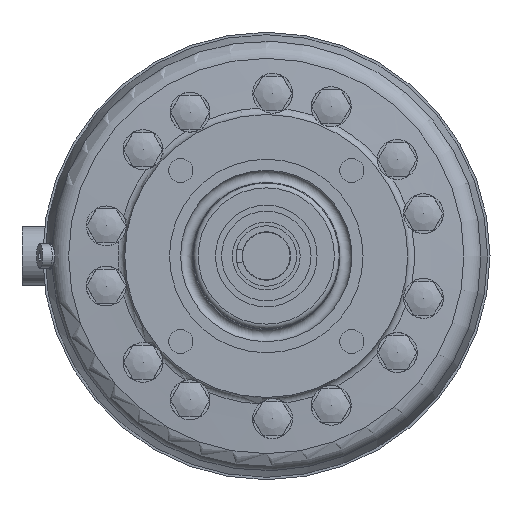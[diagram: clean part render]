
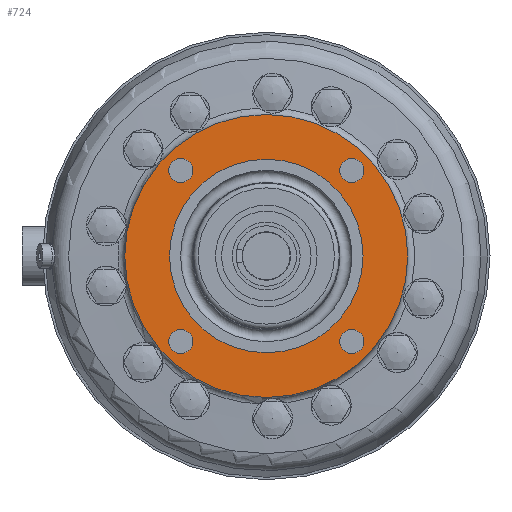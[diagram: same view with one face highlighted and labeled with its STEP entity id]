
A CAD part, front view. The second image highlights one B-rep face of the part: STEP entity #724.
In plain terms, the highlighted planar face has unit normal (0, -1, 0) as drawn and (0, 1, 0) by its records, which use the part's own axes.
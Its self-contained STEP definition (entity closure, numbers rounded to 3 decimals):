
#724 = ADVANCED_FACE( '', ( #1483, #1484, #1485, #1486, #1487, #1488 ), #1489, .T. );
#1483 = FACE_BOUND( '', #2737, .T. );
#1484 = FACE_BOUND( '', #2738, .T. );
#1485 = FACE_BOUND( '', #2739, .T. );
#1486 = FACE_BOUND( '', #2740, .T. );
#1487 = FACE_BOUND( '', #2741, .T. );
#1488 = FACE_OUTER_BOUND( '', #2742, .T. );
#1489 = PLANE( '', #2743 );
#2737 = EDGE_LOOP( '', ( #3985 ) );
#2738 = EDGE_LOOP( '', ( #3986 ) );
#2739 = EDGE_LOOP( '', ( #3987 ) );
#2740 = EDGE_LOOP( '', ( #3988 ) );
#2741 = EDGE_LOOP( '', ( #3989 ) );
#2742 = EDGE_LOOP( '', ( #3990 ) );
#2743 = AXIS2_PLACEMENT_3D( '', #3991, #3992, #3993 );
#3985 = ORIENTED_EDGE( '', *, *, #6207, .T. );
#3986 = ORIENTED_EDGE( '', *, *, #6208, .F. );
#3987 = ORIENTED_EDGE( '', *, *, #6209, .F. );
#3988 = ORIENTED_EDGE( '', *, *, #6210, .F. );
#3989 = ORIENTED_EDGE( '', *, *, #6211, .F. );
#3990 = ORIENTED_EDGE( '', *, *, #6212, .F. );
#3991 = CARTESIAN_POINT( '', ( 58.5, 36., 0. ) );
#3992 = DIRECTION( '', ( 0., 1., 0. ) );
#3993 = DIRECTION( '', ( 0., 0., 1. ) );
#6207 = EDGE_CURVE( '', #7020, #7020, #7021, .T. );
#6208 = EDGE_CURVE( '', #7022, #7022, #7023, .T. );
#6209 = EDGE_CURVE( '', #7024, #7024, #7025, .T. );
#6210 = EDGE_CURVE( '', #7026, #7026, #7027, .T. );
#6211 = EDGE_CURVE( '', #7028, #7028, #7029, .T. );
#6212 = EDGE_CURVE( '', #7030, #7030, #7031, .T. );
#7020 = VERTEX_POINT( '', #8255 );
#7021 = CIRCLE( '', #8256, 40. );
#7022 = VERTEX_POINT( '', #8257 );
#7023 = CIRCLE( '', #8258, 5. );
#7024 = VERTEX_POINT( '', #8259 );
#7025 = CIRCLE( '', #8260, 5. );
#7026 = VERTEX_POINT( '', #8261 );
#7027 = CIRCLE( '', #8262, 5. );
#7028 = VERTEX_POINT( '', #8263 );
#7029 = CIRCLE( '', #8264, 5. );
#7030 = VERTEX_POINT( '', #8265 );
#7031 = CIRCLE( '', #8266, 58.5 );
#8255 = CARTESIAN_POINT( '', ( 0., 36., -40. ) );
#8256 = AXIS2_PLACEMENT_3D( '', #13101, #13102, #13103 );
#8257 = CARTESIAN_POINT( '', ( 40.355, 36., 35.355 ) );
#8258 = AXIS2_PLACEMENT_3D( '', #13104, #13105, #13106 );
#8259 = CARTESIAN_POINT( '', ( -30.355, 36., 35.355 ) );
#8260 = AXIS2_PLACEMENT_3D( '', #13107, #13108, #13109 );
#8261 = CARTESIAN_POINT( '', ( -30.355, 36., -35.355 ) );
#8262 = AXIS2_PLACEMENT_3D( '', #13110, #13111, #13112 );
#8263 = CARTESIAN_POINT( '', ( 40.355, 36., -35.355 ) );
#8264 = AXIS2_PLACEMENT_3D( '', #13113, #13114, #13115 );
#8265 = CARTESIAN_POINT( '', ( 0., 36., -58.5 ) );
#8266 = AXIS2_PLACEMENT_3D( '', #13116, #13117, #13118 );
#13101 = CARTESIAN_POINT( '', ( 0., 36., 0. ) );
#13102 = DIRECTION( '', ( 0., -1., 0. ) );
#13103 = DIRECTION( '', ( 0., 0., -1. ) );
#13104 = CARTESIAN_POINT( '', ( 35.355, 36., 35.355 ) );
#13105 = DIRECTION( '', ( 0., 1., 0. ) );
#13106 = DIRECTION( '', ( 1., 0., 0. ) );
#13107 = CARTESIAN_POINT( '', ( -35.355, 36., 35.355 ) );
#13108 = DIRECTION( '', ( 0., 1., 0. ) );
#13109 = DIRECTION( '', ( 1., 0., 0. ) );
#13110 = CARTESIAN_POINT( '', ( -35.355, 36., -35.355 ) );
#13111 = DIRECTION( '', ( 0., 1., 0. ) );
#13112 = DIRECTION( '', ( 1., 0., 0. ) );
#13113 = CARTESIAN_POINT( '', ( 35.355, 36., -35.355 ) );
#13114 = DIRECTION( '', ( 0., 1., 0. ) );
#13115 = DIRECTION( '', ( 1., 0., 0. ) );
#13116 = CARTESIAN_POINT( '', ( 0., 36., 0. ) );
#13117 = DIRECTION( '', ( 0., -1., 0. ) );
#13118 = DIRECTION( '', ( 0., 0., -1. ) );
